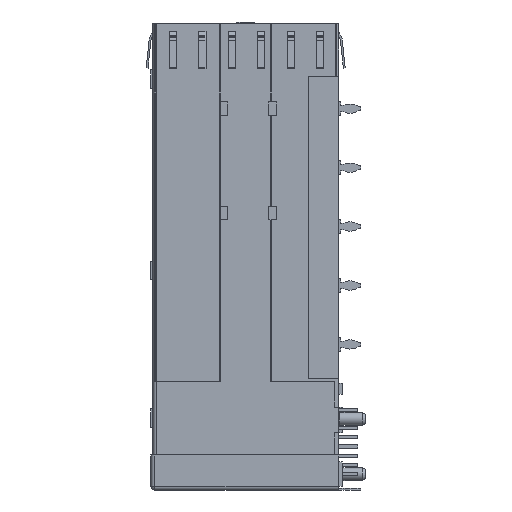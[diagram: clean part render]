
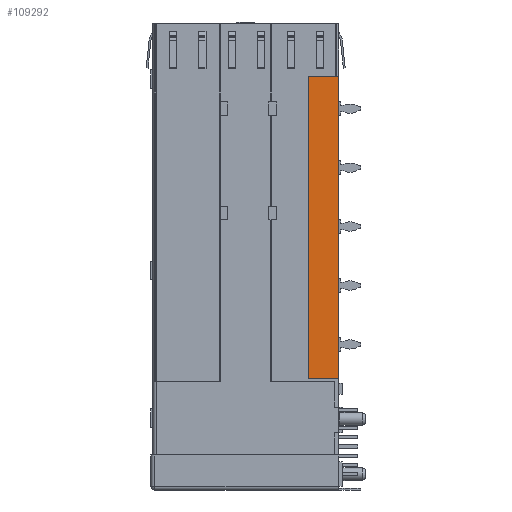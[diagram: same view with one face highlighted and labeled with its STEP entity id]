
A CAD part, left-side view. The second image highlights one B-rep face of the part: STEP entity #109292.
In plain terms, the highlighted planar face has unit normal (-1, 0, 0).
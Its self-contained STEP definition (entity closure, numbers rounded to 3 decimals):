
#6238 = EDGE_CURVE ( 'NONE', #96824, #99931, #126096, .T. ) ;
#6731 = CARTESIAN_POINT ( 'NONE',  ( -57.375, 0., -7.1 ) ) ;
#8763 = CARTESIAN_POINT ( 'NONE',  ( -57.375, 4.1, -7.1 ) ) ;
#8906 = VECTOR ( 'NONE', #72300, 1000. ) ;
#13911 = CARTESIAN_POINT ( 'NONE',  ( -57.375, 0., 0. ) ) ;
#14929 = CARTESIAN_POINT ( 'NONE',  ( -57.375, 0., -7.1 ) ) ;
#17152 = VERTEX_POINT ( 'NONE', #38559 ) ;
#21940 = EDGE_LOOP ( 'NONE', ( #133806, #25067, #102304, #122924 ) ) ;
#25067 = ORIENTED_EDGE ( 'NONE', *, *, #145863, .F. ) ;
#31364 = AXIS2_PLACEMENT_3D ( 'NONE', #13911, #36858, #116495 ) ;
#32201 = FACE_OUTER_BOUND ( 'NONE', #21940, .T. ) ;
#33958 = VECTOR ( 'NONE', #137279, 1000. ) ;
#34951 = VECTOR ( 'NONE', #55558, 1000. ) ;
#36858 = DIRECTION ( 'NONE',  ( 1., 0., 0. ) ) ;
#37549 = LINE ( 'NONE', #69076, #33958 ) ;
#37927 = CARTESIAN_POINT ( 'NONE',  ( -57.375, 0., -48.1 ) ) ;
#38333 = DIRECTION ( 'NONE',  ( 0., -1., 0. ) ) ;
#38559 = CARTESIAN_POINT ( 'NONE',  ( -57.375, 4.1, -48.1 ) ) ;
#42794 = LINE ( 'NONE', #37927, #8906 ) ;
#55558 = DIRECTION ( 'NONE',  ( 0., 0., 1. ) ) ;
#59287 = CARTESIAN_POINT ( 'NONE',  ( -57.375, 0., -48.1 ) ) ;
#65537 = VECTOR ( 'NONE', #38333, 1000. ) ;
#69076 = CARTESIAN_POINT ( 'NONE',  ( -57.375, 0., -7.1 ) ) ;
#72300 = DIRECTION ( 'NONE',  ( 0., 1., 0. ) ) ;
#96824 = VERTEX_POINT ( 'NONE', #8763 ) ;
#99855 = EDGE_CURVE ( 'NONE', #99931, #112916, #37549, .T. ) ;
#99931 = VERTEX_POINT ( 'NONE', #6731 ) ;
#102304 = ORIENTED_EDGE ( 'NONE', *, *, #141029, .F. ) ;
#105033 = PLANE ( 'NONE',  #31364 ) ;
#109292 = ADVANCED_FACE ( 'NONE', ( #32201 ), #105033, .F. ) ;
#112916 = VERTEX_POINT ( 'NONE', #59287 ) ;
#116495 = DIRECTION ( 'NONE',  ( 0., 0., 1. ) ) ;
#122924 = ORIENTED_EDGE ( 'NONE', *, *, #99855, .F. ) ;
#124223 = CARTESIAN_POINT ( 'NONE',  ( -57.375, 4.1, -7.1 ) ) ;
#126096 = LINE ( 'NONE', #14929, #65537 ) ;
#129338 = LINE ( 'NONE', #124223, #34951 ) ;
#133806 = ORIENTED_EDGE ( 'NONE', *, *, #6238, .F. ) ;
#137279 = DIRECTION ( 'NONE',  ( 0., 0., -1. ) ) ;
#141029 = EDGE_CURVE ( 'NONE', #112916, #17152, #42794, .T. ) ;
#145863 = EDGE_CURVE ( 'NONE', #17152, #96824, #129338, .T. ) ;
